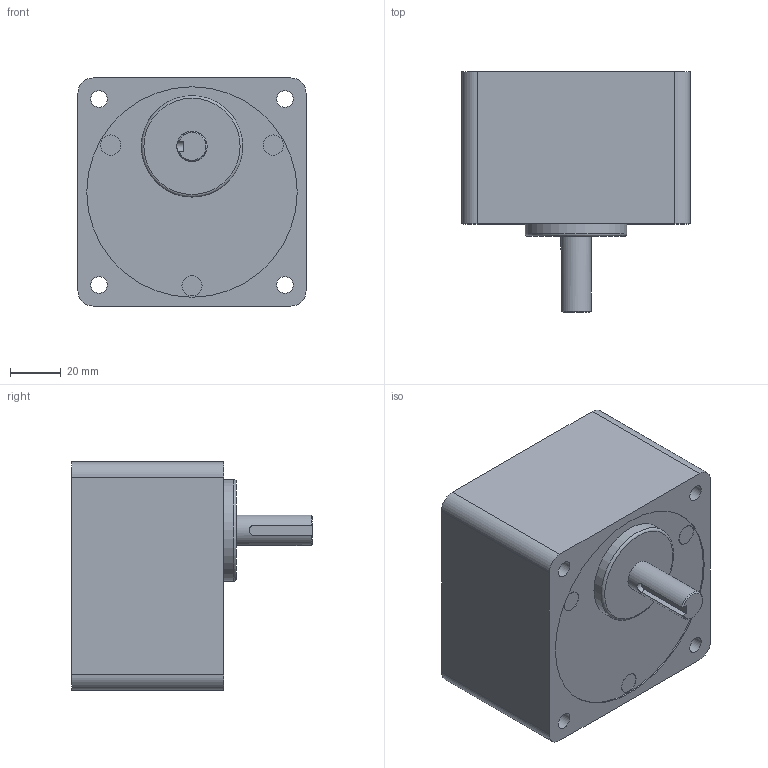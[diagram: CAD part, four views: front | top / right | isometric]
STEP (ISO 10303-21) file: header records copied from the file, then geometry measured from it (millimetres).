
FILE_DESCRIPTION((''),'2;1');
FILE_NAME('\\Servert1600\threepeace\2015homepage\STP\HP-Data_Gearhead_3D_STEP\EB-3.4.stp','2016-11-18T10:37:05',('Administrator'),(''),'Autodesk Inventor 2010','Autodesk Inventor 2010','');
FILE_SCHEMA(('AUTOMOTIVE_DESIGN { 1 0 10303 214 1 1 1 1 }'));
Length unit declared in the file: millimetre
Products named in the file (1): EB-3
Bounding box: 90 x 95 x 90 mm (x, y, z)
Volume: 466629.3 mm3; surface area: 46992.3 mm2
Topology: 2 solids, 2 shells, 35 faces, 75 edges, 50 vertices
Faces by surface type: plane 17, cylinder 12, bspline 4, torus 1, cone 1
Full cylindrical faces by diameter (mm): 8 x3, 12 x1, 40 x1, 83 x2
Entity records: 1003 total; most frequent: CARTESIAN_POINT 237, DIRECTION 155, ORIENTED_EDGE 124, AXIS2_PLACEMENT_3D 65, EDGE_CURVE 62, EDGE_LOOP 61, VERTEX_POINT 49, FACE_OUTER_BOUND 35
